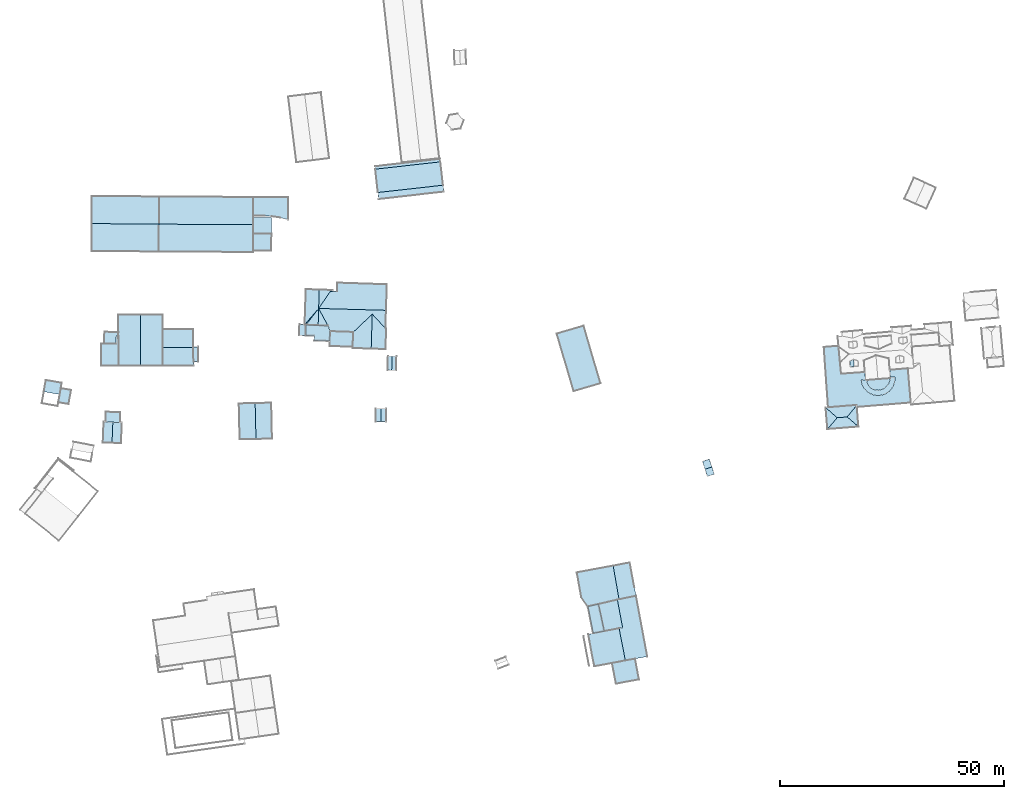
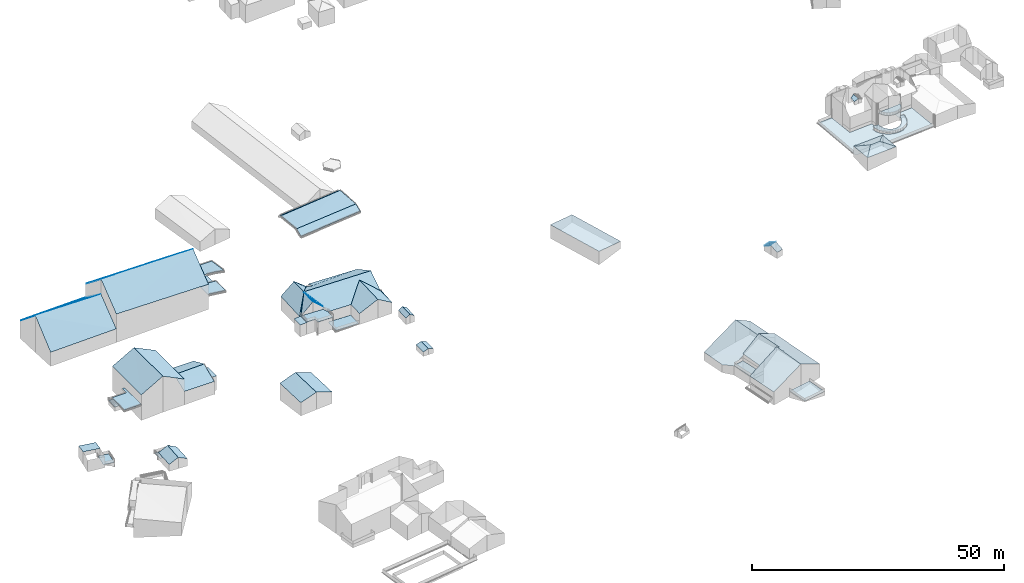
# Not in any storey, part 53 of 57: 56 roofs.
"""IFC2X3 building model written with IfcOpenShell, lengths in metres."""

from ifc_helpers import new_model, entity, si_unit, converted_unit, origin, place, context, subcontext, project, spatial, face_set, surface_model, element, save


model = new_model("IFC2X3")

# Units and contexts
model_context = context("Model", 3, precision=1e-05, world=origin())
body_context = subcontext(model_context, "Body", "Model", "MODEL_VIEW")
ifc_project = project(units=[converted_unit("PLANEANGLEUNIT", "DEGREE", entity("IfcRatioMeasure", 0.0174532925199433), si_unit("PLANEANGLEUNIT", "RADIAN"), dimensions=[0, 0, 0, 0, 0, 0, 0]), si_unit("AREAUNIT", "SQUARE_METRE"), si_unit("LENGTHUNIT", "METRE")], contexts=[model_context])

# Site, building
site_placement = place(None, origin())
site = spatial("IfcSite", under=ifc_project, at=site_placement, Name="_site", CompositionType="ELEMENT")
building_1_placement = place(site_placement, origin())
building_1 = spatial("IfcBuilding", under=site, at=building_1_placement, Name="_building", CompositionType="ELEMENT")

# Roofs
roof_1_placement = place(building_1_placement, origin())
element("IfcRoof", 1, at=roof_1_placement, inside=building_1, Name="Roof", ShapeType="NOTDEFINED", context=body_context, shape_type="SurfaceModel", body=[
    surface_model("IfcFaceBasedSurfaceModel", [(66.73, 78.01, 213.7), (68.76, 77.93, 212.77), (68.96, 82.561, 212.75), (68.53, 82.58, 212.967), (66.92, 82.64, 213.78)], [face_set([[[0, 1, 2, 3, 4]]])]),
])
roof_2_placement = place(building_1_placement, origin())
element("IfcRoof", 2, at=roof_2_placement, inside=building_1, Name="Roof", ShapeType="NOTDEFINED", context=body_context, shape_type="SurfaceModel", body=[
    surface_model("IfcFaceBasedSurfaceModel", [(65.29, 82.702, 211.075), (66.92, 82.64, 211.075), (68.53, 82.58, 211.075), (68.6, 84.85, 211.096), (65.36, 84.949, 211.096)], [face_set([[[0, 1, 2, 3, 4]]])]),
])
roof_3_placement = place(building_1_placement, origin())
element("IfcRoof", 3, at=roof_3_placement, inside=building_1, Name="Roof", ShapeType="NOTDEFINED", context=body_context, shape_type="SurfaceModel", body=[
    surface_model("IfcFaceBasedSurfaceModel", [(66.92, 82.64, 213.78), (65.29, 82.702, 212.885), (64.88, 82.721, 212.66), (64.69, 78.1, 212.67), (66.73, 78.01, 213.7)], [face_set([[[0, 1, 2, 3, 4]]])]),
])

# Building
building_2_placement = place(site_placement, origin())
building_2 = spatial("IfcBuilding", under=site, at=building_2_placement, Name="_building", CompositionType="ELEMENT")

# Roofs
roof_4_placement = place(building_2_placement, origin())
element("IfcRoof", 4, at=roof_4_placement, inside=building_2, Name="Roof", ShapeType="NOTDEFINED", context=body_context, shape_type="SurfaceModel", body=[
    surface_model("IfcFaceBasedSurfaceModel", [(98.3, 128.42, 215.71), (98.28, 124.811, 215.71), (102.36, 124.779, 214.75), (102.38, 128.4, 214.75)], [face_set([[[0, 1, 2, 3]]])]),
])
roof_5_placement = place(building_2_placement, origin())
element("IfcRoof", 5, at=roof_5_placement, inside=building_2, Name="Roof", ShapeType="NOTDEFINED", context=body_context, shape_type="SurfaceModel", body=[
    surface_model("IfcFaceBasedSurfaceModel", [(98.28, 124.76, 216.16), (98.26, 120.939, 216.16), (102.35, 120.92, 215.69), (102.37, 124.74, 215.69)], [face_set([[[0, 1, 2, 3]]])]),
])

# Building
building_3_placement = place(site_placement, origin())
building_3 = spatial("IfcBuilding", under=site, at=building_3_placement, Name="_building", CompositionType="ELEMENT")

# Roofs
roof_6_placement = place(building_3_placement, origin())
element("IfcRoof", 6, at=roof_6_placement, inside=building_3, Name="Roof", ShapeType="NOTDEFINED", context=body_context, shape_type="SurfaceModel", body=[
    surface_model("IfcFaceBasedSurfaceModel", [(199.24, 72.141, 222.3), (199.77, 70.52, 221.35), (201.3, 71.029, 221.35), (200.78, 72.641, 222.3)], [face_set([[[0, 1, 2, 3]]])]),
])
roof_7_placement = place(building_3_placement, origin())
element("IfcRoof", 7, at=roof_7_placement, inside=building_3, Name="Roof", ShapeType="NOTDEFINED", context=body_context, shape_type="SurfaceModel", body=[
    surface_model("IfcFaceBasedSurfaceModel", [(200.78, 72.641, 222.3), (200.21, 74.381, 221.35), (198.67, 73.881, 221.35), (199.24, 72.141, 222.3)], [face_set([[[0, 1, 2, 3]]])]),
])

# Building
building_4_placement = place(site_placement, origin())
building_4 = spatial("IfcBuilding", under=site, at=building_4_placement, Name="_building", CompositionType="ELEMENT")

# Roofs
roof_8_placement = place(building_4_placement, origin())
element("IfcRoof", 8, at=roof_8_placement, inside=building_4, Name="Roof", ShapeType="NOTDEFINED", context=body_context, shape_type="SurfaceModel", body=[
    surface_model("IfcFaceBasedSurfaceModel", [(98.9, 78.859, 217.75), (102.51, 78.949, 216.52), (102.33, 86.971, 216.46), (98.71, 86.881, 217.76)], [face_set([[[0, 1, 2, 3]]])]),
])
roof_9_placement = place(building_4_placement, origin())
element("IfcRoof", 9, at=roof_9_placement, inside=building_4, Name="Roof", ShapeType="NOTDEFINED", context=body_context, shape_type="SurfaceModel", body=[
    surface_model("IfcFaceBasedSurfaceModel", [(98.71, 86.881, 217.76), (95.09, 86.801, 216.45), (95.28, 78.779, 216.51), (98.9, 78.859, 217.75)], [face_set([[[0, 1, 2, 3]]])]),
])

# Building
building_5_placement = place(site_placement, origin())
building_5 = spatial("IfcBuilding", under=site, at=building_5_placement, Name="_building", CompositionType="ELEMENT")

# Roofs
roof_10_placement = place(building_5_placement, origin())
element("IfcRoof", 10, at=roof_10_placement, inside=building_5, Name="Roof", ShapeType="NOTDEFINED", context=body_context, shape_type="SurfaceModel", body=[
    surface_model("IfcFaceBasedSurfaceModel", [(64.99, 100.199, 213.082), (67.63, 100.199, 213.082), (67.62, 101.859, 213.082), (68.18, 101.859, 213.082), (68.18, 102.689, 213.082), (65.06, 102.83, 213.082)], [face_set([[[0, 1, 2, 3, 4, 5]]])]),
])
roof_11_placement = place(building_5_placement, origin())
element("IfcRoof", 11, at=roof_11_placement, inside=building_5, Name="Roof", ShapeType="NOTDEFINED", context=body_context, shape_type="SurfaceModel", body=[
    surface_model("IfcFaceBasedSurfaceModel", [(68.19, 95.221, 215.66), (68.18, 101.859, 215.66), (67.62, 101.859, 215.66), (67.63, 100.199, 215.65), (64.28, 100.199, 215.59), (64.29, 95.211, 215.59)], [face_set([[[0, 1, 2, 3, 4, 5]]])]),
])

# Building
building_6_placement = place(site_placement, origin())
building_6 = spatial("IfcBuilding", under=site, at=building_6_placement, Name="_building", CompositionType="ELEMENT")

# Roofs
roof_12_placement = place(building_6_placement, origin())
element("IfcRoof", 12, at=roof_12_placement, inside=building_6, Name="Roof", ShapeType="NOTDEFINED", context=body_context, shape_type="SurfaceModel", body=[
    surface_model("IfcFaceBasedSurfaceModel", [(231.0, 83.82, 229.35), (228.76, 83.641, 229.35), (226.6, 81.08, 228.58), (233.54, 81.641, 228.5)], [face_set([[[0, 1, 2, 3]]])]),
])
roof_13_placement = place(building_6_placement, origin())
element("IfcRoof", 13, at=roof_13_placement, inside=building_6, Name="Roof", ShapeType="NOTDEFINED", context=body_context, shape_type="SurfaceModel", body=[
    surface_model("IfcFaceBasedSurfaceModel", [(228.76, 83.641, 229.35), (226.21, 85.91, 228.59), (226.6, 81.08, 228.58)], [face_set([[[0, 1, 2]]])]),
])
roof_14_placement = place(building_6_placement, origin())
element("IfcRoof", 14, at=roof_14_placement, inside=building_6, Name="Roof", ShapeType="NOTDEFINED", context=body_context, shape_type="SurfaceModel", body=[
    surface_model("IfcFaceBasedSurfaceModel", [(233.54, 81.641, 228.5), (233.188, 86.01, 228.5), (233.15, 86.461, 228.5), (231.0, 83.82, 229.35)], [face_set([[[0, 1, 2, 3]]])]),
])
roof_15_placement = place(building_6_placement, origin())
element("IfcRoof", 15, at=roof_15_placement, inside=building_6, Name="Roof", ShapeType="NOTDEFINED", context=body_context, shape_type="SurfaceModel", body=[
    surface_model("IfcFaceBasedSurfaceModel", [(231.0, 83.82, 229.35), (233.15, 86.461, 228.5), (226.75, 85.951, 228.583), (226.21, 85.91, 228.59), (228.76, 83.641, 229.35)], [face_set([[[0, 1, 2, 3, 4]]])]),
])

# Building
building_7_placement = place(site_placement, origin())
building_7 = spatial("IfcBuilding", under=site, at=building_7_placement, Name="_building", CompositionType="ELEMENT")

# Roofs
roof_16_placement = place(building_7_placement, origin())
element("IfcRoof", 16, at=roof_16_placement, inside=building_7, Name="Roof", ShapeType="NOTDEFINED", context=body_context, shape_type="SurfaceModel", body=[
    surface_model("IfcFaceBasedSurfaceModel", [(240.651, 92.699, 226.71), (240.67, 92.461, 226.72), (240.58, 92.451, 226.73), (240.57, 92.02, 226.666), (240.3, 91.34, 226.577), (240.0, 90.85, 226.519), (239.61, 90.449, 226.479), (239.24, 90.15, 226.454), (238.83, 89.99, 226.452), (238.36, 89.83, 226.454), (237.91, 89.779, 226.473), (237.43, 89.811, 226.506), (236.87, 89.971, 226.565), (236.35, 90.24, 226.64), (235.92, 90.619, 226.728), (235.63, 91.09, 226.825), (235.41, 91.58, 226.885), (235.35, 92.039, 226.89), (235.11, 92.02, 226.86), (235.1, 92.15, 226.86), (234.13, 92.029, 226.852), (234.21, 91.49, 226.847), (234.4, 90.869, 226.81), (234.69, 90.34, 226.706), (235.13, 89.801, 226.592), (235.66, 89.34, 226.486), (236.26, 88.98, 226.394), (236.91, 88.74, 226.318), (237.41, 88.65, 226.275), (237.94, 88.631, 226.243), (238.57, 88.67, 226.214), (239.24, 88.85, 226.205), (239.86, 89.18, 226.223), (240.42, 89.561, 226.253), (240.97, 90.189, 226.321), (241.34, 90.84, 226.402), (241.56, 91.49, 226.491), (241.68, 92.109, 226.58), (241.65, 92.73, 226.676)], [face_set([[[0, 1, 2, 3, 4, 5, 6, 7, 8, 9, 10, 11, 12, 13, 14, 15, 16, 17, 18, 19, 20, 21, 22, 23, 24, 25, 26, 27, 28, 29, 30, 31, 32, 33, 34, 35, 36, 37, 38]]])]),
])
roof_17_placement = place(building_7_placement, origin())
element("IfcRoof", 17, at=roof_17_placement, inside=building_7, Name="Roof", ShapeType="NOTDEFINED", context=body_context, shape_type="SurfaceModel", body=[
    surface_model("IfcFaceBasedSurfaceModel", [(240.58, 92.451, 229.819), (237.87, 92.23, 229.819), (235.35, 92.039, 229.819), (235.41, 91.58, 229.832), (235.63, 91.09, 229.832), (235.92, 90.619, 229.832), (236.35, 90.24, 229.832), (236.87, 89.971, 229.832), (237.43, 89.811, 229.832), (237.91, 89.779, 229.832), (238.36, 89.83, 229.832), (238.83, 89.99, 229.832), (239.24, 90.15, 229.832), (239.61, 90.449, 229.832), (240.0, 90.85, 229.832), (240.3, 91.34, 229.832), (240.57, 92.02, 229.832)], [face_set([[[0, 1, 2, 3, 4, 5, 6, 7, 8, 9, 10, 11, 12, 13, 14, 15, 16]]])]),
])
roof_18_placement = place(building_7_placement, origin())
element("IfcRoof", 18, at=roof_18_placement, inside=building_7, Name="Roof", ShapeType="NOTDEFINED", context=body_context, shape_type="SurfaceModel", body=[
    surface_model("IfcFaceBasedSurfaceModel", [(232.58, 95.09, 232.29), (232.41, 96.699, 232.491), (231.56, 96.221, 232.133), (231.66, 95.01, 231.96)], [face_set([[[0, 1, 2, 3]]])]),
])
roof_19_placement = place(building_7_placement, origin())
element("IfcRoof", 19, at=roof_19_placement, inside=building_7, Name="Roof", ShapeType="NOTDEFINED", context=body_context, shape_type="SurfaceModel", body=[
    surface_model("IfcFaceBasedSurfaceModel", [(226.75, 85.951, 226.16), (233.15, 86.461, 226.165), (233.188, 86.01, 226.165), (245.24, 87.0, 226.18), (244.58, 94.66, 226.183), (240.53, 94.311, 226.183), (240.651, 92.699, 226.17), (241.65, 92.73, 226.17), (241.68, 92.109, 226.17), (241.34, 90.84, 226.17), (240.97, 90.189, 226.17), (240.42, 89.561, 226.17), (239.24, 88.85, 226.17), (238.57, 88.67, 226.17), (237.94, 88.631, 226.17), (237.41, 88.65, 226.17), (236.91, 88.74, 226.17), (236.26, 88.98, 226.17), (235.66, 89.34, 226.17), (235.13, 89.801, 226.17), (234.69, 90.34, 226.17), (234.4, 90.869, 226.17), (234.21, 91.49, 226.17), (234.13, 92.029, 226.17), (235.1, 92.15, 226.163), (234.96, 93.82, 226.163), (229.67, 93.439, 226.163), (229.42, 95.902, 226.163), (229.102, 99.438, 226.163), (229.079, 99.689, 226.16), (225.81, 99.41, 226.16)], [face_set([[[0, 1, 2, 3, 4, 5, 6, 7, 8, 9, 10, 11, 12, 13, 14, 15, 16, 17, 18, 19, 20, 21, 22, 23, 24, 25, 26, 27, 28, 29, 30]]])]),
])

# Building
building_8_placement = place(site_placement, origin())
building_8 = spatial("IfcBuilding", under=site, at=building_8_placement, Name="_building", CompositionType="ELEMENT")

# Roofs
roof_20_placement = place(building_8_placement, origin())
element("IfcRoof", 20, at=roof_20_placement, inside=building_8, Name="Roof", ShapeType="NOTDEFINED", context=body_context, shape_type="SurfaceModel", body=[
    surface_model("IfcFaceBasedSurfaceModel", [(55.06, 88.83, 213.45), (55.51, 91.41, 213.16), (51.96, 92.039, 213.16), (51.51, 89.461, 213.45)], [face_set([[[0, 1, 2, 3]]])]),
])
roof_21_placement = place(building_8_placement, origin())
element("IfcRoof", 21, at=roof_21_placement, inside=building_8, Name="Roof", ShapeType="NOTDEFINED", context=body_context, shape_type="SurfaceModel", body=[
    surface_model("IfcFaceBasedSurfaceModel", [(54.75, 87.061, 210.66), (57.04, 86.66, 210.66), (57.59, 89.811, 210.66), (55.3, 90.211, 210.66)], [face_set([[[0, 1, 2, 3]]])]),
])

# Building
building_9_placement = place(site_placement, origin())
building_9 = spatial("IfcBuilding", under=site, at=building_9_placement, Name="_building", CompositionType="ELEMENT")

# Roofs
roof_22_placement = place(building_9_placement, origin())
element("IfcRoof", 22, at=roof_22_placement, inside=building_9, Name="Roof", ShapeType="NOTDEFINED", context=body_context, shape_type="SurfaceModel", body=[
    surface_model("IfcFaceBasedSurfaceModel", [(73.1, 106.66, 220.74), (68.17, 106.66, 217.98), (68.19, 95.221, 217.93), (73.11, 95.221, 220.74)], [face_set([[[0, 1, 2, 3]]])]),
])
roof_23_placement = place(building_9_placement, origin())
element("IfcRoof", 23, at=roof_23_placement, inside=building_9, Name="Roof", ShapeType="NOTDEFINED", context=body_context, shape_type="SurfaceModel", body=[
    surface_model("IfcFaceBasedSurfaceModel", [(78.04, 99.32, 216.88), (78.04, 95.221, 215.31), (84.94, 95.23, 215.31), (84.94, 96.17, 215.71), (84.93, 99.33, 217.09)], [face_set([[[0, 1, 2, 3, 4]]])]),
])
roof_24_placement = place(building_9_placement, origin())
element("IfcRoof", 24, at=roof_24_placement, inside=building_9, Name="Roof", ShapeType="NOTDEFINED", context=body_context, shape_type="SurfaceModel", body=[
    surface_model("IfcFaceBasedSurfaceModel", [(84.93, 99.33, 217.09), (84.93, 99.49, 217.02), (84.93, 103.43, 215.31), (78.04, 103.42, 215.31), (78.04, 99.32, 216.88)], [face_set([[[0, 1, 2, 3, 4]]])]),
])
roof_25_placement = place(building_9_placement, origin())
element("IfcRoof", 25, at=roof_25_placement, inside=building_9, Name="Roof", ShapeType="NOTDEFINED", context=body_context, shape_type="SurfaceModel", body=[
    surface_model("IfcFaceBasedSurfaceModel", [(84.93, 99.49, 215.83), (84.93, 99.33, 215.824), (84.94, 96.17, 215.7), (86.0, 96.17, 215.73), (86.0, 99.49, 215.78)], [face_set([[[0, 1, 2, 3, 4]]])]),
])
roof_26_placement = place(building_9_placement, origin())
element("IfcRoof", 26, at=roof_26_placement, inside=building_9, Name="Roof", ShapeType="NOTDEFINED", context=body_context, shape_type="SurfaceModel", body=[
    surface_model("IfcFaceBasedSurfaceModel", [(73.11, 95.221, 220.74), (78.04, 95.221, 218.32), (78.04, 99.32, 218.335), (78.04, 103.42, 218.35), (78.03, 106.67, 218.36), (73.1, 106.66, 220.74)], [face_set([[[0, 1, 2, 3, 4, 5]]])]),
])

# Building
building_10_placement = place(site_placement, origin())
building_10 = spatial("IfcBuilding", under=site, at=building_10_placement, Name="_building", CompositionType="ELEMENT")

# Roofs
roof_27_placement = place(building_10_placement, origin())
element("IfcRoof", 27, at=roof_27_placement, inside=building_10, Name="Roof", ShapeType="NOTDEFINED", context=body_context, shape_type="SurfaceModel", body=[
    surface_model("IfcFaceBasedSurfaceModel", [(178.71, 50.561, 224.56), (170.62, 49.051, 220.44), (171.61, 43.57, 220.36), (173.07, 41.461, 220.87), (175.45, 42.0, 222.17), (179.66, 42.948, 224.376), (180.03, 43.028, 224.57)], [face_set([[[0, 1, 2, 3, 4, 5, 6]]])]),
])
roof_28_placement = place(building_10_placement, origin())
element("IfcRoof", 28, at=roof_28_placement, inside=building_10, Name="Roof", ShapeType="NOTDEFINED", context=body_context, shape_type="SurfaceModel", body=[
    surface_model("IfcFaceBasedSurfaceModel", [(180.04, 36.561, 226.04), (176.75, 35.941, 224.161), (174.26, 35.48, 222.74), (173.17, 35.27, 222.11), (174.52, 28.07, 222.11), (181.44, 29.369, 225.69)], [face_set([[[0, 1, 2, 3, 4, 5]]])]),
])
roof_29_placement = place(building_10_placement, origin())
element("IfcRoof", 29, at=roof_29_placement, inside=building_10, Name="Roof", ShapeType="NOTDEFINED", context=body_context, shape_type="SurfaceModel", body=[
    surface_model("IfcFaceBasedSurfaceModel", [(180.03, 43.028, 224.57), (183.83, 43.811, 222.52), (182.44, 51.26, 222.51), (178.71, 50.561, 224.56)], [face_set([[[0, 1, 2, 3]]])]),
])
roof_30_placement = place(building_10_placement, origin())
element("IfcRoof", 30, at=roof_30_placement, inside=building_10, Name="Roof", ShapeType="NOTDEFINED", context=body_context, shape_type="SurfaceModel", body=[
    surface_model("IfcFaceBasedSurfaceModel", [(179.66, 42.948, 225.5), (175.45, 42.0, 222.65), (176.75, 35.941, 222.28), (180.04, 36.561, 224.893), (180.83, 36.711, 225.52)], [face_set([[[0, 1, 2, 3, 4]]])]),
])
roof_31_placement = place(building_10_placement, origin())
element("IfcRoof", 31, at=roof_31_placement, inside=building_10, Name="Roof", ShapeType="NOTDEFINED", context=body_context, shape_type="SurfaceModel", body=[
    surface_model("IfcFaceBasedSurfaceModel", [(178.49, 28.82, 220.545), (179.36, 24.18, 220.545), (184.5, 25.15, 220.545), (183.63, 29.779, 220.545)], [face_set([[[0, 1, 2, 3]]])]),
])
roof_32_placement = place(building_10_placement, origin())
element("IfcRoof", 32, at=roof_32_placement, inside=building_10, Name="Roof", ShapeType="NOTDEFINED", context=body_context, shape_type="SurfaceModel", body=[
    surface_model("IfcFaceBasedSurfaceModel", [(176.75, 35.939, 220.96), (175.45, 42.0, 220.96), (173.07, 41.461, 220.96), (174.26, 35.48, 220.96)], [face_set([[[0, 1, 2, 3]]])]),
])
roof_33_placement = place(building_10_placement, origin())
element("IfcRoof", 33, at=roof_33_placement, inside=building_10, Name="Roof", ShapeType="NOTDEFINED", context=body_context, shape_type="SurfaceModel", body=[
    surface_model("IfcFaceBasedSurfaceModel", [(174.26, 35.48, 220.78), (176.75, 35.941, 220.76), (175.45, 42.0, 220.76), (173.07, 41.461, 220.87)], [face_set([[[0, 1, 2, 3]]])]),
])
roof_34_placement = place(building_10_placement, origin())
element("IfcRoof", 34, at=roof_34_placement, inside=building_10, Name="Roof", ShapeType="NOTDEFINED", context=body_context, shape_type="SurfaceModel", body=[
    surface_model("IfcFaceBasedSurfaceModel", [(180.83, 36.711, 225.52), (180.04, 36.561, 226.04), (181.44, 29.369, 225.69), (186.37, 30.289, 223.39), (183.83, 43.811, 223.46), (180.03, 43.028, 225.319), (179.66, 42.948, 225.5)], [face_set([[[0, 1, 2, 3, 4, 5, 6]]])]),
])

# Building
building_11_placement = place(site_placement, origin())
building_11 = spatial("IfcBuilding", under=site, at=building_11_placement, Name="_building", CompositionType="ELEMENT")

# Roof
roof_35_placement = place(building_11_placement, origin())
element("IfcRoof", 35, at=roof_35_placement, inside=building_11, Name="Roof", ShapeType="NOTDEFINED", context=body_context, shape_type="SurfaceModel", body=[
    surface_model("IfcFaceBasedSurfaceModel", [(169.91, 89.57, 220.55), (175.89, 91.33, 219.84), (172.13, 104.17, 219.84), (166.14, 102.41, 220.55)], [face_set([[[0, 1, 2, 3]]])]),
])

# Building
building_12_placement = place(site_placement, origin())
building_12 = spatial("IfcBuilding", under=site, at=building_12_placement, Name="_building", CompositionType="ELEMENT")

# Roofs
roof_36_placement = place(building_12_placement, origin())
element("IfcRoof", 36, at=roof_36_placement, inside=building_12, Name="Roof", ShapeType="NOTDEFINED", context=body_context, shape_type="SurfaceModel", body=[
    surface_model("IfcFaceBasedSurfaceModel", [(127.84, 103.59, 217.27), (127.98, 107.641, 219.6), (112.9, 108.061, 219.51), (115.01, 104.15, 217.53), (115.48, 102.949, 216.86), (120.64, 102.77, 216.87), (124.88, 106.789, 218.97)], [face_set([[[0, 1, 2, 3, 4, 5, 6]]])]),
])
roof_37_placement = place(building_12_placement, origin())
element("IfcRoof", 37, at=roof_37_placement, inside=building_12, Name="Roof", ShapeType="NOTDEFINED", context=body_context, shape_type="SurfaceModel", body=[
    surface_model("IfcFaceBasedSurfaceModel", [(112.9, 108.061, 219.445), (113.02, 112.24, 219.44), (110.06, 112.34, 216.8), (109.79, 104.461, 216.79), (110.07, 104.391, 216.76), (112.79, 104.259, 219.45)], [face_set([[[0, 1, 2, 3, 4, 5]]])]),
])
roof_38_placement = place(building_12_placement, origin())
element("IfcRoof", 38, at=roof_38_placement, inside=building_12, Name="Roof", ShapeType="NOTDEFINED", context=body_context, shape_type="SurfaceModel", body=[
    surface_model("IfcFaceBasedSurfaceModel", [(124.88, 106.789, 218.97), (120.64, 102.77, 216.87), (120.52, 99.18, 216.92), (124.64, 99.051, 219.0)], [face_set([[[0, 1, 2, 3]]])]),
])
roof_39_placement = place(building_12_placement, origin())
element("IfcRoof", 39, at=roof_39_placement, inside=building_12, Name="Roof", ShapeType="NOTDEFINED", context=body_context, shape_type="SurfaceModel", body=[
    surface_model("IfcFaceBasedSurfaceModel", [(124.88, 106.789, 218.97), (124.64, 99.051, 219.0), (127.87, 98.939, 217.17), (128.03, 103.58, 217.27), (127.84, 103.59, 217.27)], [face_set([[[0, 1, 2, 3, 4]]])]),
])
roof_40_placement = place(building_12_placement, origin())
element("IfcRoof", 40, at=roof_40_placement, inside=building_12, Name="Roof", ShapeType="NOTDEFINED", context=body_context, shape_type="SurfaceModel", body=[
    surface_model("IfcFaceBasedSurfaceModel", [(120.53, 99.461, 214.37), (120.64, 102.77, 214.37), (115.48, 102.949, 214.37), (115.36, 99.641, 214.37)], [face_set([[[0, 1, 2, 3]]])]),
])
roof_41_placement = place(building_12_placement, origin())
element("IfcRoof", 41, at=roof_41_placement, inside=building_12, Name="Roof", ShapeType="NOTDEFINED", context=body_context, shape_type="SurfaceModel", body=[
    surface_model("IfcFaceBasedSurfaceModel", [(110.03, 101.99, 216.71), (111.93, 101.92, 216.83), (111.9, 100.869, 216.83), (115.4, 100.76, 216.86), (115.48, 102.949, 216.86), (115.01, 104.15, 216.856), (112.79, 104.259, 216.808), (110.07, 104.391, 216.76)], [face_set([[[0, 1, 2, 3, 4, 5, 6, 7]]])]),
])
roof_42_placement = place(building_12_placement, origin())
element("IfcRoof", 42, at=roof_42_placement, inside=building_12, Name="Roof", ShapeType="NOTDEFINED", context=body_context, shape_type="SurfaceModel", body=[
    surface_model("IfcFaceBasedSurfaceModel", [(115.15, 100.77, 216.89), (115.4, 100.76, 216.89), (115.48, 102.949, 216.89), (115.01, 104.15, 216.89), (112.79, 104.26, 216.89), (110.07, 104.391, 216.89), (110.03, 101.99, 216.89), (111.93, 101.92, 216.89), (111.9, 100.869, 216.89), (111.93, 100.869, 216.89)], [face_set([[[0, 1, 2, 3, 4, 5, 6, 7, 8, 9]]])]),
])
roof_43_placement = place(building_12_placement, origin())
element("IfcRoof", 43, at=roof_43_placement, inside=building_12, Name="Roof", ShapeType="NOTDEFINED", context=body_context, shape_type="SurfaceModel", body=[
    surface_model("IfcFaceBasedSurfaceModel", [(116.04, 111.949, 217.2), (116.05, 112.141, 217.13), (113.02, 112.24, 219.44), (112.9, 108.061, 219.445), (115.52, 111.881, 217.43)], [face_set([[[0, 1, 2, 3, 4]]])]),
])
roof_44_placement = place(building_12_placement, origin())
element("IfcRoof", 44, at=roof_44_placement, inside=building_12, Name="Roof", ShapeType="NOTDEFINED", context=body_context, shape_type="SurfaceModel", body=[
    surface_model("IfcFaceBasedSurfaceModel", [(112.79, 104.259, 219.45), (115.01, 104.15, 217.53), (112.9, 108.061, 219.445)], [face_set([[[0, 1, 2]]])]),
])
roof_45_placement = place(building_12_placement, origin())
element("IfcRoof", 45, at=roof_45_placement, inside=building_12, Name="Roof", ShapeType="NOTDEFINED", context=body_context, shape_type="SurfaceModel", body=[
    surface_model("IfcFaceBasedSurfaceModel", [(110.07, 104.391, 216.76), (109.79, 104.461, 216.79), (108.63, 104.5, 216.61), (108.55, 102.039, 216.61), (110.03, 101.99, 216.71)], [face_set([[[0, 1, 2, 3, 4]]])]),
])
roof_46_placement = place(building_12_placement, origin())
element("IfcRoof", 46, at=roof_46_placement, inside=building_12, Name="Roof", ShapeType="NOTDEFINED", context=body_context, shape_type="SurfaceModel", body=[
    surface_model("IfcFaceBasedSurfaceModel", [(127.98, 107.641, 219.6), (128.17, 113.42, 216.39), (117.11, 113.789, 216.42), (117.05, 111.91, 217.2), (116.04, 111.949, 217.2), (115.52, 111.881, 217.43), (112.9, 108.061, 219.51)], [face_set([[[0, 1, 2, 3, 4, 5, 6]]])]),
])

# Building
building_13_placement = place(site_placement, origin())
building_13 = spatial("IfcBuilding", under=site, at=building_13_placement, Name="_building", CompositionType="ELEMENT")

# Roofs
roof_47_placement = place(building_13_placement, origin())
element("IfcRoof", 47, at=roof_47_placement, inside=building_13, Name="Roof", ShapeType="NOTDEFINED", context=body_context, shape_type="SurfaceModel", body=[
    surface_model("IfcFaceBasedSurfaceModel", [(77.23, 126.9, 223.6), (77.19, 120.76, 218.89), (98.26, 120.631, 218.84), (98.29, 126.77, 223.61)], [face_set([[[0, 1, 2, 3]]])]),
])
roof_48_placement = place(building_13_placement, origin())
element("IfcRoof", 48, at=roof_48_placement, inside=building_13, Name="Roof", ShapeType="NOTDEFINED", context=body_context, shape_type="SurfaceModel", body=[
    surface_model("IfcFaceBasedSurfaceModel", [(62.21, 127.02, 219.97), (62.17, 120.85, 214.83), (77.19, 120.76, 215.32), (77.23, 126.9, 219.97)], [face_set([[[0, 1, 2, 3]]])]),
])
roof_49_placement = place(building_13_placement, origin())
element("IfcRoof", 49, at=roof_49_placement, inside=building_13, Name="Roof", ShapeType="NOTDEFINED", context=body_context, shape_type="SurfaceModel", body=[
    surface_model("IfcFaceBasedSurfaceModel", [(77.23, 126.9, 219.97), (77.26, 133.051, 215.48), (62.24, 133.141, 215.0), (62.21, 127.02, 219.97)], [face_set([[[0, 1, 2, 3]]])]),
])
roof_50_placement = place(building_13_placement, origin())
element("IfcRoof", 50, at=roof_50_placement, inside=building_13, Name="Roof", ShapeType="NOTDEFINED", context=body_context, shape_type="SurfaceModel", body=[
    surface_model("IfcFaceBasedSurfaceModel", [(98.29, 126.77, 223.61), (98.33, 132.92, 218.71), (77.26, 133.051, 218.77), (77.23, 126.9, 223.6)], [face_set([[[0, 1, 2, 3]]])]),
])

# Building
building_14_placement = place(site_placement, origin())
building_14 = spatial("IfcBuilding", under=site, at=building_14_placement, Name="_building", CompositionType="ELEMENT")

# Roofs
roof_51_placement = place(building_14_placement, origin())
element("IfcRoof", 51, at=roof_51_placement, inside=building_14, Name="Roof", ShapeType="NOTDEFINED", context=body_context, shape_type="SurfaceModel", body=[
    surface_model("IfcFaceBasedSurfaceModel", [(126.82, 85.65, 216.18), (125.68, 85.65, 215.75), (125.69, 82.75, 215.75), (126.84, 82.76, 216.18)], [face_set([[[0, 1, 2, 3]]])]),
])
roof_52_placement = place(building_14_placement, origin())
element("IfcRoof", 52, at=roof_52_placement, inside=building_14, Name="Roof", ShapeType="NOTDEFINED", context=body_context, shape_type="SurfaceModel", body=[
    surface_model("IfcFaceBasedSurfaceModel", [(126.84, 82.76, 216.18), (128.02, 82.76, 215.75), (128.01, 85.66, 215.75), (126.82, 85.65, 216.18)], [face_set([[[0, 1, 2, 3]]])]),
])

# Building
building_15_placement = place(site_placement, origin())
building_15 = spatial("IfcBuilding", under=site, at=building_15_placement, Name="_building", CompositionType="ELEMENT")

# Roof
roof_53_placement = place(building_15_placement, origin())
element("IfcRoof", 53, at=roof_53_placement, inside=building_15, Name="Roof", ShapeType="NOTDEFINED", context=body_context, shape_type="SurfaceModel", body=[
    surface_model("IfcFaceBasedSurfaceModel", [(98.33, 132.92, 214.26), (98.3, 128.82, 214.97), (100.86, 128.721, 214.97), (102.45, 128.631, 214.98), (104.33, 128.359, 215.01), (106.11, 127.881, 215.01), (106.1, 132.92, 214.26)], [face_set([[[0, 1, 2, 3, 4, 5, 6]]])]),
])

# Building
building_16_placement = place(site_placement, origin())
building_16 = spatial("IfcBuilding", under=site, at=building_16_placement, Name="_building", CompositionType="ELEMENT")

# Roofs
roof_54_placement = place(building_16_placement, origin())
element("IfcRoof", 54, at=roof_54_placement, inside=building_16, Name="Roof", ShapeType="NOTDEFINED", context=body_context, shape_type="SurfaceModel", body=[
    surface_model("IfcFaceBasedSurfaceModel", [(129.3, 97.41, 216.67), (128.4, 97.43, 216.06), (128.33, 94.26, 216.06), (129.23, 94.24, 216.67)], [face_set([[[0, 1, 2, 3]]])]),
])
roof_55_placement = place(building_16_placement, origin())
element("IfcRoof", 55, at=roof_55_placement, inside=building_16, Name="Roof", ShapeType="NOTDEFINED", context=body_context, shape_type="SurfaceModel", body=[
    surface_model("IfcFaceBasedSurfaceModel", [(129.23, 94.24, 216.67), (130.23, 94.221, 216.06), (130.3, 97.391, 216.06), (129.3, 97.41, 216.67)], [face_set([[[0, 1, 2, 3]]])]),
])

# Building
building_17_placement = place(site_placement, origin())
building_17 = spatial("IfcBuilding", under=site, at=building_17_placement, Name="_building", CompositionType="ELEMENT")

# Roof
roof_56_placement = place(building_17_placement, origin())
element("IfcRoof", 56, at=roof_56_placement, inside=building_17, Name="Roof", ShapeType="NOTDEFINED", context=body_context, shape_type="SurfaceModel", body=[
    surface_model("IfcFaceBasedSurfaceModel", [(126.33, 132.471, 213.42), (140.88, 134.131, 213.43), (140.71, 135.6, 214.39), (140.11, 140.82, 214.73), (140.04, 141.461, 214.3), (125.5, 139.801, 214.29), (125.57, 139.18, 214.62), (126.16, 133.971, 214.43)], [face_set([[[0, 1, 2, 3, 4, 5, 6, 7]]])]),
])

save(model, "model.ifc")
